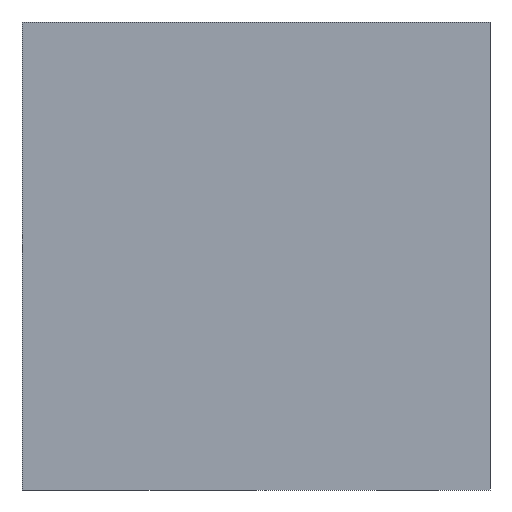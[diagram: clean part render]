
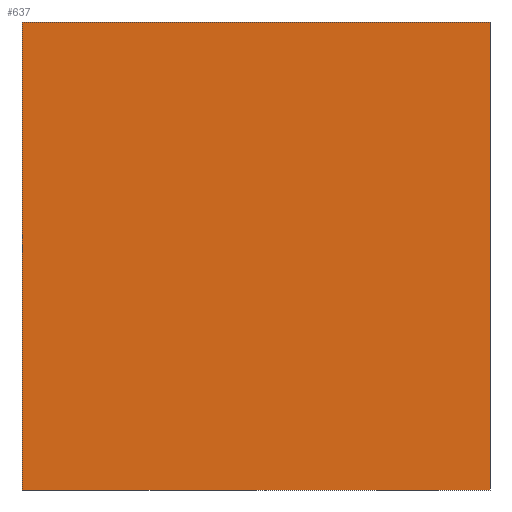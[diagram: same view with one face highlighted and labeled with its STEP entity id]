
A CAD part, left-side view. The second image highlights one B-rep face of the part: STEP entity #637.
In plain terms, the highlighted planar face has unit normal (-1, 0, 0).
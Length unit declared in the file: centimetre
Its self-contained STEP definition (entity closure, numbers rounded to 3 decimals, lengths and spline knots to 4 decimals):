
#27 = VECTOR ( 'NONE', #580, 100. ) ;
#48 = ORIENTED_EDGE ( 'NONE', *, *, #679, .F. ) ;
#62 = CARTESIAN_POINT ( 'NONE',  ( 0., 0., 0. ) ) ;
#77 = FACE_OUTER_BOUND ( 'NONE', #711, .T. ) ;
#80 = AXIS2_PLACEMENT_3D ( 'NONE', #426, #631, #289 ) ;
#109 = ORIENTED_EDGE ( 'NONE', *, *, #485, .T. ) ;
#115 = DIRECTION ( 'NONE',  ( 0., -1., 0. ) ) ;
#148 = CARTESIAN_POINT ( 'NONE',  ( 0., 1000., 1000. ) ) ;
#178 = VERTEX_POINT ( 'NONE', #707 ) ;
#261 = ORIENTED_EDGE ( 'NONE', *, *, #863, .T. ) ;
#264 = LINE ( 'NONE', #604, #319 ) ;
#289 = DIRECTION ( 'NONE',  ( 0., 0., -1. ) ) ;
#310 = LINE ( 'NONE', #586, #27 ) ;
#319 = VECTOR ( 'NONE', #468, 100. ) ;
#334 = EDGE_CURVE ( 'NONE', #178, #376, #264, .T. ) ;
#363 = PLANE ( 'NONE',  #80 ) ;
#376 = VERTEX_POINT ( 'NONE', #62 ) ;
#426 = CARTESIAN_POINT ( 'NONE',  ( 0., 1000., 1000. ) ) ;
#465 = LINE ( 'NONE', #734, #667 ) ;
#468 = DIRECTION ( 'NONE',  ( 0., 0., -1. ) ) ;
#485 = EDGE_CURVE ( 'NONE', #572, #376, #465, .T. ) ;
#499 = CARTESIAN_POINT ( 'NONE',  ( 0., 1000., 1000. ) ) ;
#572 = VERTEX_POINT ( 'NONE', #578 ) ;
#578 = CARTESIAN_POINT ( 'NONE',  ( 0., 1000., 0. ) ) ;
#580 = DIRECTION ( 'NONE',  ( 0., 0., -1. ) ) ;
#586 = CARTESIAN_POINT ( 'NONE',  ( 0., 1000., 1000. ) ) ;
#604 = CARTESIAN_POINT ( 'NONE',  ( 0., 0., 1000. ) ) ;
#619 = LINE ( 'NONE', #148, #730 ) ;
#628 = DIRECTION ( 'NONE',  ( 0., -1., 0. ) ) ;
#631 = DIRECTION ( 'NONE',  ( 1., 0., 0. ) ) ;
#637 = ADVANCED_FACE ( 'NONE', ( #77 ), #363, .F. ) ;
#667 = VECTOR ( 'NONE', #115, 100. ) ;
#679 = EDGE_CURVE ( 'NONE', #743, #178, #619, .T. ) ;
#707 = CARTESIAN_POINT ( 'NONE',  ( 0., 0., 1000. ) ) ;
#711 = EDGE_LOOP ( 'NONE', ( #109, #731, #48, #261 ) ) ;
#730 = VECTOR ( 'NONE', #628, 100. ) ;
#731 = ORIENTED_EDGE ( 'NONE', *, *, #334, .F. ) ;
#734 = CARTESIAN_POINT ( 'NONE',  ( 0., 1000., 0. ) ) ;
#743 = VERTEX_POINT ( 'NONE', #499 ) ;
#863 = EDGE_CURVE ( 'NONE', #743, #572, #310, .T. ) ;
